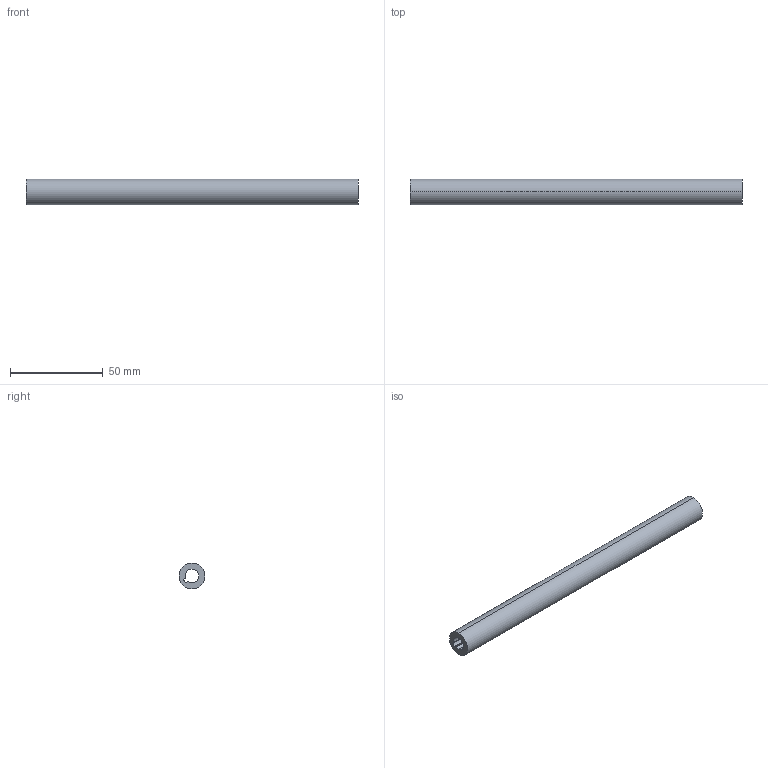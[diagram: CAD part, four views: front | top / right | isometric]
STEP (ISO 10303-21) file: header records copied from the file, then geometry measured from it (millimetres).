
FILE_DESCRIPTION (( 'STEP AP214' ), '1' );
FILE_NAME ('SyncronisationsstangeNova_Pro_KAB_0300_KS16.step', '2009-11-24T08:53:12', ( 'Grass' ), ( 'Grass GmbH' ), 'SwSTEP 2.0', 'SolidWorks 2009', '' );
FILE_SCHEMA (( 'AUTOMOTIVE_DESIGN' ));
Length unit declared in the file: millimetre
Products named in the file (1): SyncronisationsstangeNova_Pro_KAB_0300_KS16
Bounding box: 179 x 14 x 14 mm (x, y, z)
Volume: 19355.2 mm3; surface area: 12650.2 mm2
Topology: 1 solids, 1 shells, 15 faces, 39 edges, 26 vertices
Faces by surface type: cylinder 11, plane 4
Entity records: 513 total; most frequent: DIRECTION 93, CARTESIAN_POINT 81, ORIENTED_EDGE 78, EDGE_CURVE 39, AXIS2_PLACEMENT_3D 38, VERTEX_POINT 26, CIRCLE 22, VECTOR 17
